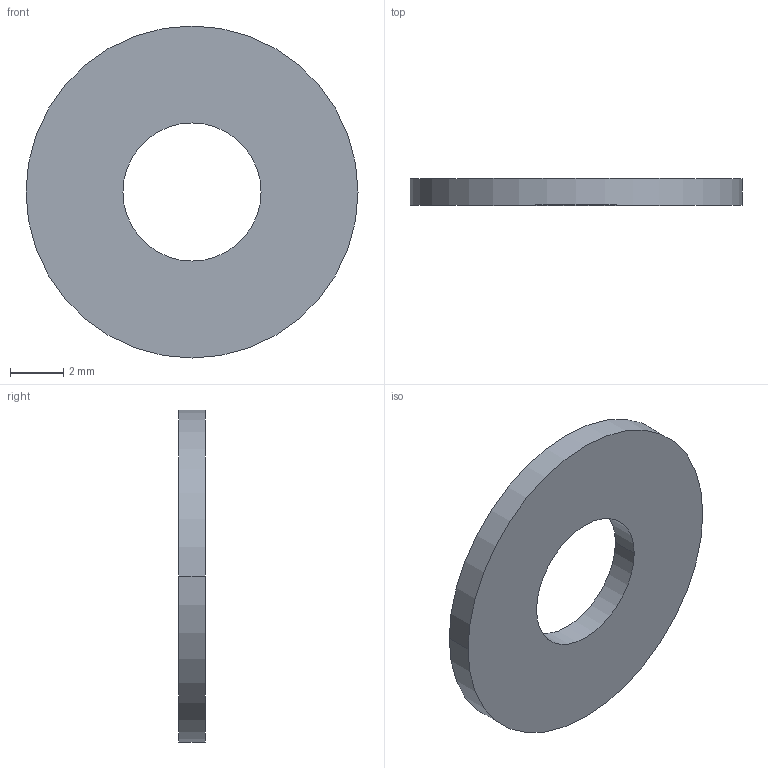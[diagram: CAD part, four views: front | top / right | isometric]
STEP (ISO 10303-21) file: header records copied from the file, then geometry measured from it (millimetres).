
FILE_DESCRIPTION((''),'2;1');
FILE_NAME('ART4BEARINGSPACER','2022-08-24T09:28:05',('domen.bizjak'),('Audax d.o.o.'),'CREO PARAMETRIC BY PTC INC, 2021184','CREO PARAMETRIC BY PTC INC, 2021184','');
FILE_SCHEMA(('AP242_MANAGED_MODEL_BASED_3D_ENGINEERING_MIM_LF { 1 0 10303 442 1 1 4 }'));
Length unit declared in the file: millimetre
Products named in the file (1): ART4BEARINGSPACER
Bounding box: 12.5 x 1 x 12.5 mm (x, y, z)
Volume: 101.5 mm3; surface area: 258.6 mm2
Topology: 1 solids, 1 shells, 6 faces, 19 edges, 18 vertices
Faces by surface type: cylinder 4, plane 2
Entity records: 866 total; most frequent: COLOUR_RGB 320, DIRECTION 71, CARTESIAN_POINT 52, AXIS2_PLACEMENT_3D 32, PROPERTY_DEFINITION 26, ORIENTED_EDGE 24, REPRESENTATION 24, PROPERTY_DEFINITION_REPRESENTATION 24
